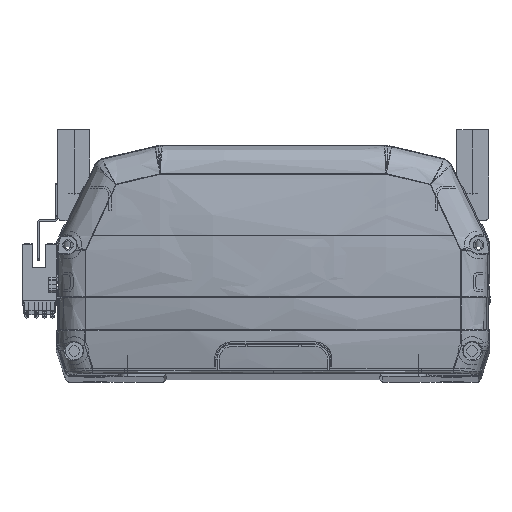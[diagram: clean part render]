
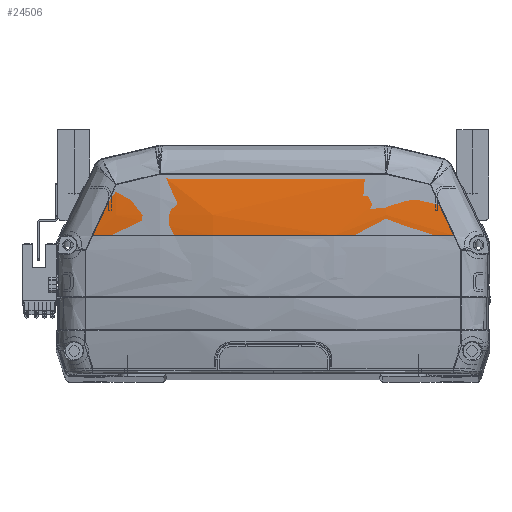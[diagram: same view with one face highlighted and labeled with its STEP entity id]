
A CAD part, top view. The second image highlights one B-rep face of the part: STEP entity #24506.
In plain terms, the highlighted toroidal (fillet/blend) face has major radius 312.5 mm and minor radius 572.4 mm.
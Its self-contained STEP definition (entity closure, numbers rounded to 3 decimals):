
#812 = CARTESIAN_POINT ( 'NONE',  ( -61.718, 75.278, -4.232 ) ) ;
#964 = CARTESIAN_POINT ( 'NONE',  ( -61.718, 75.278, -4.232 ) ) ;
#1152 = CARTESIAN_POINT ( 'NONE',  ( 44.331, 79.443, -2.97 ) ) ;
#5089 = EDGE_CURVE ( 'NONE', #28917, #18468, #39786, .T. ) ;
#5341 = CARTESIAN_POINT ( 'NONE',  ( 0., 55.096, -260. ) ) ;
#5735 = CARTESIAN_POINT ( 'NONE',  ( -14.788, 79.361, -1.235 ) ) ;
#5795 = CARTESIAN_POINT ( 'NONE',  ( -44.331, 79.443, -2.97 ) ) ;
#6238 = CARTESIAN_POINT ( 'NONE',  ( 61.718, 75.278, -4.232 ) ) ;
#6280 = EDGE_CURVE ( 'NONE', #16906, #28917, #29781, .T. ) ;
#6933 = ORIENTED_EDGE ( 'NONE', *, *, #5089, .F. ) ;
#7200 = ORIENTED_EDGE ( 'NONE', *, *, #24252, .F. ) ;
#7236 = CARTESIAN_POINT ( 'NONE',  ( -69.472, 58.454, -4.329 ) ) ;
#10769 = CARTESIAN_POINT ( 'NONE',  ( 71.027, 55.096, -4.524 ) ) ;
#11367 = EDGE_LOOP ( 'NONE', ( #37711, #29731, #6933, #30574, #38032, #7200 ) ) ;
#12836 = CARTESIAN_POINT ( 'NONE',  ( 64.811, 68.545, -4.037 ) ) ;
#13807 = CARTESIAN_POINT ( 'NONE',  ( -55.929, 76.661, -3.711 ) ) ;
#13866 = CARTESIAN_POINT ( 'NONE',  ( 55.929, 76.66, -3.711 ) ) ;
#14718 = AXIS2_PLACEMENT_3D ( 'NONE', #5341, #15346, #16032 ) ;
#14934 = TOROIDAL_SURFACE ( 'NONE', #14718, -312.5, 572.4 ) ;
#15346 = DIRECTION ( 'NONE',  ( 1., 0., 0. ) ) ;
#15731 = CARTESIAN_POINT ( 'NONE',  ( -29.579, 79.39, -1.814 ) ) ;
#16032 = DIRECTION ( 'NONE',  ( 0., 0., -1. ) ) ;
#16906 = VERTEX_POINT ( 'NONE', #22768 ) ;
#17122 = CARTESIAN_POINT ( 'NONE',  ( 61.718, 75.278, -4.232 ) ) ;
#17235 = CARTESIAN_POINT ( 'NONE',  ( 67.917, 61.809, -4.135 ) ) ;
#18461 = FACE_OUTER_BOUND ( 'NONE', #11367, .T. ) ;
#18468 = VERTEX_POINT ( 'NONE', #10769 ) ;
#19337 = VERTEX_POINT ( 'NONE', #27725 ) ;
#19615 = DIRECTION ( 'NONE',  ( 0., 1., 0. ) ) ;
#20194 = B_SPLINE_CURVE_WITH_KNOTS ( 'NONE', 3,
 ( #39878, #7236, #33863, #20477, #27286, #964 ),
 .UNSPECIFIED., .F., .F.,
 ( 4, 2, 4 ),
 ( 0.006, 0.017, 0.029 ),
 .UNSPECIFIED. ) ;
#20477 = CARTESIAN_POINT ( 'NONE',  ( -64.813, 68.545, -4.11 ) ) ;
#22110 = EDGE_CURVE ( 'NONE', #22879, #16906, #37857, .T. ) ;
#22243 = CARTESIAN_POINT ( 'NONE',  ( -44.331, 79.443, -2.97 ) ) ;
#22768 = CARTESIAN_POINT ( 'NONE',  ( 44.331, 79.443, -2.97 ) ) ;
#22879 = VERTEX_POINT ( 'NONE', #5795 ) ;
#24055 = CIRCLE ( 'NONE', #36118, 572.4 ) ;
#24252 = EDGE_CURVE ( 'NONE', #30683, #22879, #24428, .T. ) ;
#24428 = B_SPLINE_CURVE_WITH_KNOTS ( 'NONE', 3,
 ( #812, #13807, #30555, #30410 ),
 .UNSPECIFIED., .F., .F.,
 ( 4, 4 ),
 ( 0., 0.018 ),
 .UNSPECIFIED. ) ;
#24506 = ADVANCED_FACE ( 'NONE', ( #18461 ), #14934, .T. ) ;
#26010 = DIRECTION ( 'NONE',  ( 0., 0., 1. ) ) ;
#26726 = CARTESIAN_POINT ( 'NONE',  ( 71.027, 55.096, -4.524 ) ) ;
#27286 = CARTESIAN_POINT ( 'NONE',  ( -63.264, 71.911, -4.135 ) ) ;
#27725 = CARTESIAN_POINT ( 'NONE',  ( -71.027, 55.096, -4.524 ) ) ;
#28489 = CARTESIAN_POINT ( 'NONE',  ( 29.579, 79.389, -1.814 ) ) ;
#28760 = CARTESIAN_POINT ( 'NONE',  ( 44.331, 79.443, -2.97 ) ) ;
#28917 = VERTEX_POINT ( 'NONE', #17122 ) ;
#29731 = ORIENTED_EDGE ( 'NONE', *, *, #39890, .T. ) ;
#29753 = CARTESIAN_POINT ( 'NONE',  ( 61.718, 75.278, -4.232 ) ) ;
#29781 = B_SPLINE_CURVE_WITH_KNOTS ( 'NONE', 3,
 ( #1152, #36789, #13866, #29753 ),
 .UNSPECIFIED., .F., .F.,
 ( 4, 4 ),
 ( 0., 0.018 ),
 .UNSPECIFIED. ) ;
#29883 = EDGE_CURVE ( 'NONE', #19337, #30683, #20194, .T. ) ;
#30410 = CARTESIAN_POINT ( 'NONE',  ( -44.331, 79.443, -2.97 ) ) ;
#30555 = CARTESIAN_POINT ( 'NONE',  ( -50.132, 78.049, -3.29 ) ) ;
#30574 = ORIENTED_EDGE ( 'NONE', *, *, #6280, .F. ) ;
#30683 = VERTEX_POINT ( 'NONE', #31237 ) ;
#31237 = CARTESIAN_POINT ( 'NONE',  ( -61.718, 75.278, -4.232 ) ) ;
#33863 = CARTESIAN_POINT ( 'NONE',  ( -67.917, 61.816, -4.208 ) ) ;
#35093 = CARTESIAN_POINT ( 'NONE',  ( 14.805, 79.361, -1.235 ) ) ;
#35596 = CARTESIAN_POINT ( 'NONE',  ( 0., 55.096, -572.5 ) ) ;
#36118 = AXIS2_PLACEMENT_3D ( 'NONE', #35596, #19615, #26010 ) ;
#36789 = CARTESIAN_POINT ( 'NONE',  ( 50.132, 78.049, -3.29 ) ) ;
#37711 = ORIENTED_EDGE ( 'NONE', *, *, #29883, .F. ) ;
#37857 = B_SPLINE_CURVE_WITH_KNOTS ( 'NONE', 3,
 ( #22243, #15731, #5735, #35093, #28489, #28760 ),
 .UNSPECIFIED., .F., .F.,
 ( 4, 2, 4 ),
 ( 0., 0.044, 0.089 ),
 .UNSPECIFIED. ) ;
#38032 = ORIENTED_EDGE ( 'NONE', *, *, #22110, .F. ) ;
#39786 = B_SPLINE_CURVE_WITH_KNOTS ( 'NONE', 3,
 ( #6238, #12836, #17235, #26726 ),
 .UNSPECIFIED., .F., .F.,
 ( 4, 4 ),
 ( 0., 0.022 ),
 .UNSPECIFIED. ) ;
#39878 = CARTESIAN_POINT ( 'NONE',  ( -71.027, 55.096, -4.524 ) ) ;
#39890 = EDGE_CURVE ( 'NONE', #19337, #18468, #24055, .T. ) ;
